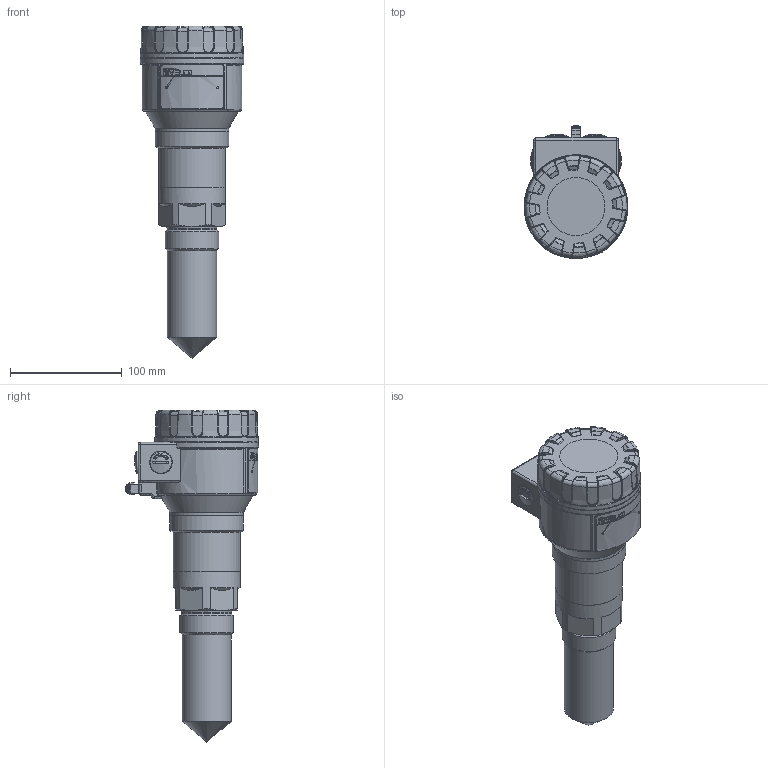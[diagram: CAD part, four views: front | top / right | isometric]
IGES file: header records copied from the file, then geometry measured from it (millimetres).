
Global section: file name: WGP_140-4; native system: Autodesk Inventor 2015; preprocessor: unknown; author: jpapp; date: 20160222.161157; units: millimetre
Bounding box: 92.94 x 119.26 x 297.5 mm (x, y, z)
Volume: 1105611.5 mm3; surface area: 118367.4 mm2
Topology: 12 solids, 12 shells, 1262 faces, 3164 edges, 1960 vertices
Faces by surface type: bspline 1262
